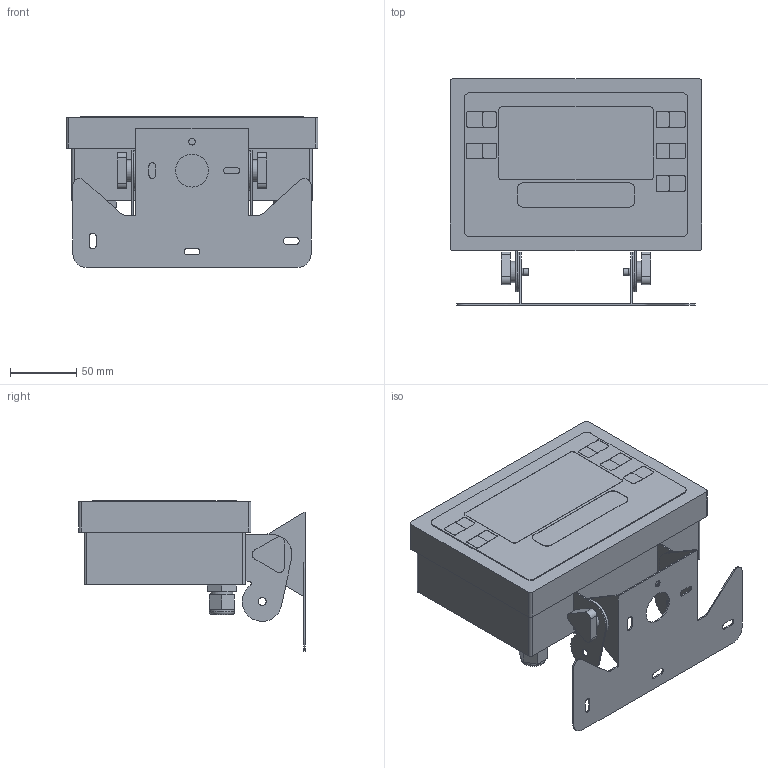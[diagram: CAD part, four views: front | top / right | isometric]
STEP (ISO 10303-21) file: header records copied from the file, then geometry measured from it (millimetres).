
FILE_DESCRIPTION(/* description */ ('STEP AP203'),/* implementation_level */ '2;1');
FILE_NAME(/* name */ '3104C-MESA',/* time_stamp */ '2023-10-23T13:03:34+02:00',/* author */ ('License CC BY-ND 4.0'),/* organization */ ('CADENAS'),/* preprocessor_version */ 'ST-DEVELOPER v19.3',/* originating_system */ 'PARTsolutions',/* authorisation */ ' ');
FILE_SCHEMA (('CONFIG_CONTROL_DESIGN'));
Length unit declared in the file: millimetre
Products named in the file (3): 3104C-MESA; 31XXC_SUPPORT; 3104C_BODY
Assembly tree (2 placements, depth 2):
  3104C-MESA
    31XXC_SUPPORT
    3104C_BODY
Bounding box: 190 x 171 x 114 mm (x, y, z)
Volume: 1516928 mm3; surface area: 144387.2 mm2
Topology: 2 solids, 2 shells, 313 faces, 779 edges, 513 vertices
Faces by surface type: plane 197, cylinder 110, torus 4, cone 2
Full cylindrical faces by diameter (mm): 5 x7, 5.4 x2, 6 x4, 7.25 x2, 10.5 x2, 13 x2, 14.8 x2, 16 x2, 16.5 x2, 19.1 x2, 25 x1, 30 x2
Entity records: 11410 total; most frequent: DIRECTION 1608, CARTESIAN_POINT 1566, ORIENTED_EDGE 1480, EDGE_CURVE 740, AXIS2_PLACEMENT_3D 552, VERTEX_POINT 510, LINE 504, VECTOR 504
